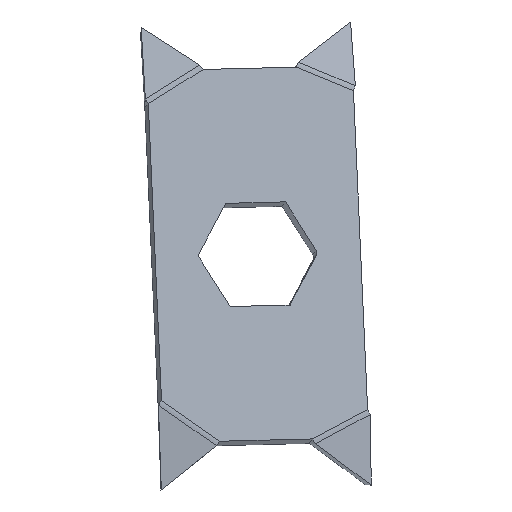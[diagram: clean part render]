
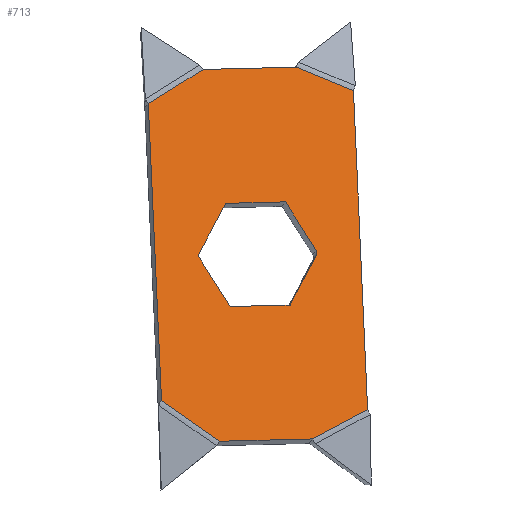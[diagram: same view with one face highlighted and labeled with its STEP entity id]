
A CAD part, left-side view. The second image highlights one B-rep face of the part: STEP entity #713.
In plain terms, the highlighted planar face has unit normal (-0.98, -0.12, 0.159).
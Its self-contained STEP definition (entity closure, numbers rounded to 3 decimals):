
#14=FACE_BOUND('',#103,.T.);
#15=FACE_BOUND('',#104,.T.);
#17=CIRCLE('',#762,0.5);
#18=CIRCLE('',#763,0.5);
#103=EDGE_LOOP('',(#488,#489,#490,#491,#492,#493,#494,#495));
#104=EDGE_LOOP('',(#496,#497,#498,#499,#500,#501,#502,#503));
#149=LINE('',#976,#232);
#156=LINE('',#1021,#239);
#157=LINE('',#1023,#240);
#158=LINE('',#1027,#241);
#159=LINE('',#1029,#242);
#160=LINE('',#1031,#243);
#161=LINE('',#1034,#244);
#162=LINE('',#1035,#245);
#163=LINE('',#1037,#246);
#164=LINE('',#1039,#247);
#165=LINE('',#1041,#248);
#166=LINE('',#1043,#249);
#167=LINE('',#1045,#250);
#168=LINE('',#1046,#251);
#232=VECTOR('',#806,9.925);
#239=VECTOR('',#817,6.409);
#240=VECTOR('',#818,6.12);
#241=VECTOR('',#821,6.12);
#242=VECTOR('',#822,6.409);
#243=VECTOR('',#823,6.12);
#244=VECTOR('',#826,6.12);
#245=VECTOR('',#827,6.755);
#246=VECTOR('',#828,34.289);
#247=VECTOR('',#829,6.576);
#248=VECTOR('',#830,9.962);
#249=VECTOR('',#831,6.99);
#250=VECTOR('',#832,31.954);
#251=VECTOR('',#833,7.54);
#315=VERTEX_POINT('',#973);
#316=VERTEX_POINT('',#975);
#321=VERTEX_POINT('',#1010);
#323=VERTEX_POINT('',#1019);
#324=VERTEX_POINT('',#1020);
#325=VERTEX_POINT('',#1022);
#326=VERTEX_POINT('',#1024);
#327=VERTEX_POINT('',#1026);
#328=VERTEX_POINT('',#1028);
#329=VERTEX_POINT('',#1030);
#330=VERTEX_POINT('',#1032);
#331=VERTEX_POINT('',#1036);
#332=VERTEX_POINT('',#1038);
#333=VERTEX_POINT('',#1040);
#334=VERTEX_POINT('',#1042);
#335=VERTEX_POINT('',#1044);
#374=EDGE_CURVE('',#315,#316,#149,.T.);
#384=EDGE_CURVE('',#323,#324,#156,.T.);
#385=EDGE_CURVE('',#324,#325,#157,.T.);
#386=EDGE_CURVE('',#325,#326,#17,.T.);
#387=EDGE_CURVE('',#326,#327,#158,.T.);
#388=EDGE_CURVE('',#327,#328,#159,.T.);
#389=EDGE_CURVE('',#328,#329,#160,.T.);
#390=EDGE_CURVE('',#329,#330,#18,.T.);
#391=EDGE_CURVE('',#330,#323,#161,.T.);
#392=EDGE_CURVE('',#315,#321,#162,.T.);
#393=EDGE_CURVE('',#331,#321,#163,.T.);
#394=EDGE_CURVE('',#332,#331,#164,.T.);
#395=EDGE_CURVE('',#333,#332,#165,.T.);
#396=EDGE_CURVE('',#333,#334,#166,.T.);
#397=EDGE_CURVE('',#335,#334,#167,.T.);
#398=EDGE_CURVE('',#335,#316,#168,.T.);
#488=ORIENTED_EDGE('',*,*,#384,.T.);
#489=ORIENTED_EDGE('',*,*,#385,.T.);
#490=ORIENTED_EDGE('',*,*,#386,.T.);
#491=ORIENTED_EDGE('',*,*,#387,.T.);
#492=ORIENTED_EDGE('',*,*,#388,.T.);
#493=ORIENTED_EDGE('',*,*,#389,.T.);
#494=ORIENTED_EDGE('',*,*,#390,.T.);
#495=ORIENTED_EDGE('',*,*,#391,.T.);
#496=ORIENTED_EDGE('',*,*,#392,.T.);
#497=ORIENTED_EDGE('',*,*,#393,.F.);
#498=ORIENTED_EDGE('',*,*,#394,.F.);
#499=ORIENTED_EDGE('',*,*,#395,.F.);
#500=ORIENTED_EDGE('',*,*,#396,.T.);
#501=ORIENTED_EDGE('',*,*,#397,.F.);
#502=ORIENTED_EDGE('',*,*,#398,.T.);
#503=ORIENTED_EDGE('',*,*,#374,.F.);
#683=PLANE('',#761);
#713=ADVANCED_FACE('',(#14,#15),#683,.F.);
#761=AXIS2_PLACEMENT_3D('',#1018,#815,#816);
#762=AXIS2_PLACEMENT_3D('',#1025,#819,#820);
#763=AXIS2_PLACEMENT_3D('',#1033,#824,#825);
#806=DIRECTION('',(-0.125,0.992,-0.025));
#815=DIRECTION('center_axis',(0.98,0.12,-0.159));
#816=DIRECTION('ref_axis',(-0.155,-0.044,-0.987));
#817=DIRECTION('',(0.125,-0.992,0.025));
#818=DIRECTION('',(-0.071,-0.534,-0.842));
#819=DIRECTION('center_axis',(0.98,0.12,-0.159));
#820=DIRECTION('ref_axis',(0.186,-0.837,0.515));
#821=DIRECTION('',(-0.197,0.458,-0.867));
#822=DIRECTION('',(-0.125,0.992,-0.025));
#823=DIRECTION('',(0.071,0.534,0.842));
#824=DIRECTION('center_axis',(0.98,0.12,-0.159));
#825=DIRECTION('ref_axis',(-0.186,0.837,-0.515));
#826=DIRECTION('',(0.197,-0.458,0.867));
#827=DIRECTION('',(0.181,-0.868,0.463));
#828=DIRECTION('',(-0.155,-0.044,-0.987));
#829=DIRECTION('',(0.051,-0.923,-0.382));
#830=DIRECTION('',(0.125,-0.992,0.025));
#831=DIRECTION('',(-0.186,0.835,-0.518));
#832=DIRECTION('',(0.155,0.044,0.987));
#833=DIRECTION('',(0.007,-0.82,-0.573));
#973=CARTESIAN_POINT('',(8.735,-4.774,-18.795));
#975=CARTESIAN_POINT('',(7.494,5.07,-19.038));
#976=CARTESIAN_POINT('',(8.741,-4.817,-18.794));
#1010=CARTESIAN_POINT('',(9.958,-10.635,-15.666));
#1018=CARTESIAN_POINT('Origin',(11.21,1.021,0.823));
#1019=CARTESIAN_POINT('',(11.668,4.443,6.222));
#1020=CARTESIAN_POINT('',(12.47,-1.914,6.38));
#1021=CARTESIAN_POINT('',(11.869,2.854,6.262));
#1022=CARTESIAN_POINT('',(12.032,-5.181,1.224));
#1023=CARTESIAN_POINT('',(12.355,-2.769,5.03));
#1024=CARTESIAN_POINT('',(11.955,-5.203,0.73));
#1025=CARTESIAN_POINT('Origin',(11.94,-4.763,0.966));
#1026=CARTESIAN_POINT('',(10.752,-2.401,-4.576));
#1027=CARTESIAN_POINT('',(11.668,-4.536,-0.534));
#1028=CARTESIAN_POINT('',(9.951,3.955,-4.733));
#1029=CARTESIAN_POINT('',(10.552,-0.812,-4.615));
#1030=CARTESIAN_POINT('',(10.388,7.223,0.423));
#1031=CARTESIAN_POINT('',(10.065,4.811,-3.383));
#1032=CARTESIAN_POINT('',(10.465,7.245,0.916));
#1033=CARTESIAN_POINT('Origin',(10.481,6.804,0.68));
#1034=CARTESIAN_POINT('',(10.752,6.577,2.18));
#1035=CARTESIAN_POINT('',(9.413,-8.021,-17.061));
#1036=CARTESIAN_POINT('',(15.264,-9.13,18.176));
#1037=CARTESIAN_POINT('',(16.377,-8.814,25.274));
#1038=CARTESIAN_POINT('',(14.93,-3.06,20.685));
#1039=CARTESIAN_POINT('',(15.095,-6.054,19.448));
#1040=CARTESIAN_POINT('',(13.684,6.82,20.441));
#1041=CARTESIAN_POINT('',(13.68,6.858,20.44));
#1042=CARTESIAN_POINT('',(12.384,12.655,16.817));
#1043=CARTESIAN_POINT('',(12.607,11.654,17.438));
#1044=CARTESIAN_POINT('',(7.439,11.252,-14.721));
#1045=CARTESIAN_POINT('',(6.043,10.855,-23.627));
#1046=CARTESIAN_POINT('',(7.433,12.003,-14.196));
